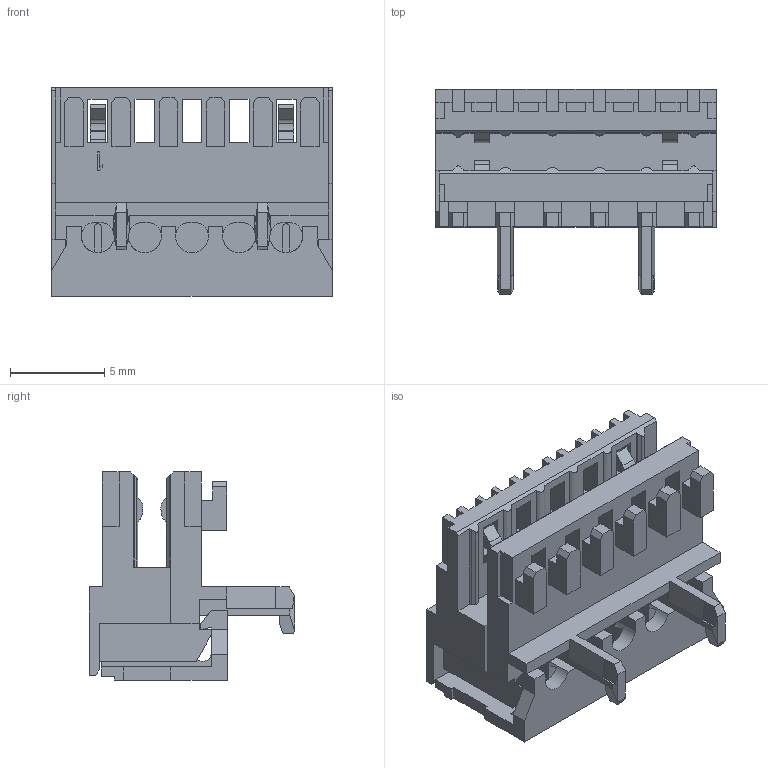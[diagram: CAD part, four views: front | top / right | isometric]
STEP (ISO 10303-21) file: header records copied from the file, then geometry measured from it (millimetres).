
FILE_DESCRIPTION((''),'2;1');
FILE_NAME('C-4-1534798-5','2010-12-31T',('workeradm'),('Tyco Electronics Ltd.'),'PRO/ENGINEER BY PARAMETRIC TECHNOLOGY CORPORATION, 2009300','PRO/ENGINEER BY PARAMETRIC TECHNOLOGY CORPORATION, 2009300','');
FILE_SCHEMA(('AUTOMOTIVE_DESIGN { 1 0 10303 214 1 1 1 1 }'));
Length unit declared in the file: millimetre
Products named in the file (1): C-4-1534798-5
Bounding box: 14.9 x 10.9 x 11.05 mm (x, y, z)
Volume: 657.4 mm3; surface area: 1477.4 mm2
Topology: 1 solids, 1 shells, 548 faces, 1640 edges, 1072 vertices
Faces by surface type: plane 470, cylinder 78
Entity records: 18642 total; most frequent: CARTESIAN_POINT 3467, ORIENTED_EDGE 3280, DIRECTION 2854, EDGE_CURVE 1640, VECTOR 1450, LINE 1450, VERTEX_POINT 1072, AXIS2_PLACEMENT_3D 702
